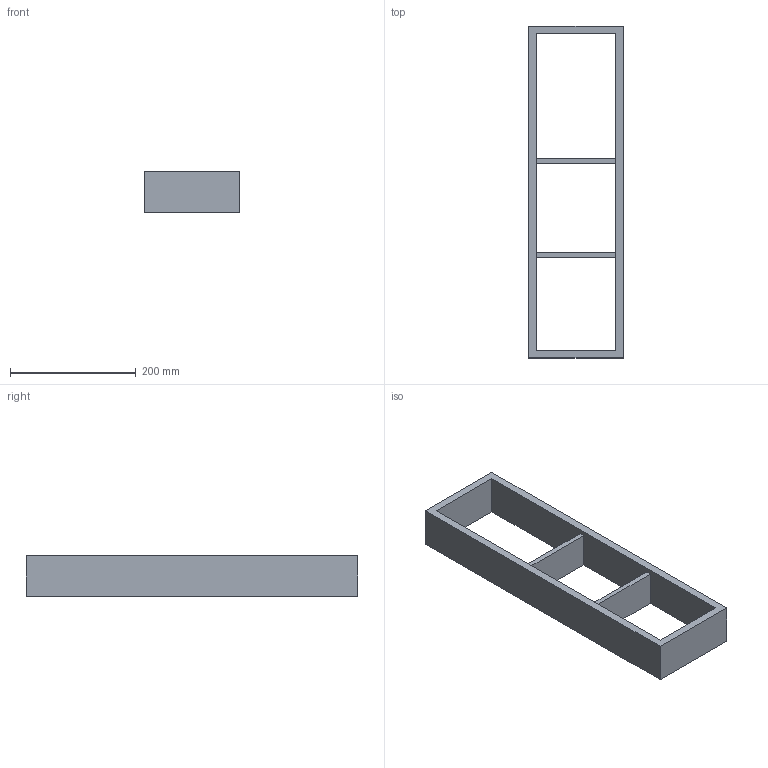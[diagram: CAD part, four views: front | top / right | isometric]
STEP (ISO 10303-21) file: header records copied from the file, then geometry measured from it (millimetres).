
FILE_DESCRIPTION (( 'STEP AP214' ), '1' );
FILE_NAME ('Vario Multi NL550_ZE150_16 mm_Buche.step', '2010-10-07T06:24:22', ( 'grass' ), ( '' ), 'SwSTEP 2.0', 'SolidWorks 2010', '' );
FILE_SCHEMA (( 'AUTOMOTIVE_DESIGN' ));
Length unit declared in the file: millimetre
Products named in the file (1): Vario Multi NL550_ZE150_16 mm_Buche
Bounding box: 150 x 529 x 65 mm (x, y, z)
Volume: 1136712 mm3; surface area: 232676 mm2
Topology: 1 solids, 1 shells, 16 faces, 48 edges, 32 vertices
Faces by surface type: plane 16
Entity records: 578 total; most frequent: CARTESIAN_POINT 97, ORIENTED_EDGE 96, DIRECTION 82, EDGE_CURVE 48, VECTOR 48, LINE 48, VERTEX_POINT 32, EDGE_LOOP 20
